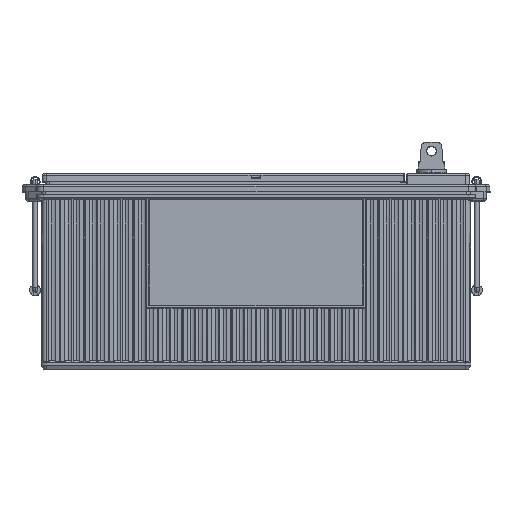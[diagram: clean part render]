
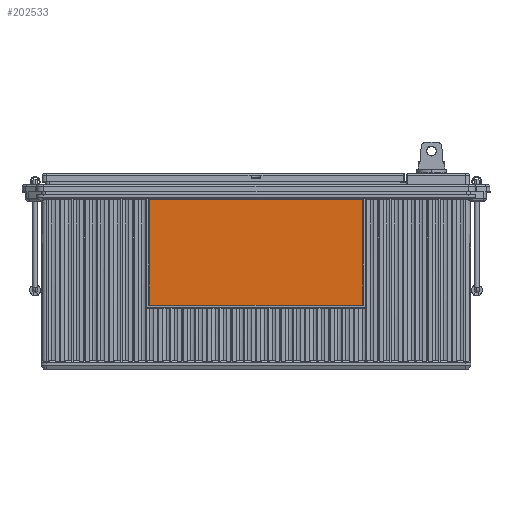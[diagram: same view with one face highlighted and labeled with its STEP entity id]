
A CAD part, top view. The second image highlights one B-rep face of the part: STEP entity #202533.
In plain terms, the highlighted planar face has unit normal (0, -0.004, 1).
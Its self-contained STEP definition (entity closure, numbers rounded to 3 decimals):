
#202513=AXIS2_PLACEMENT_3D('Plane Axis2P3D',#202510,#202511,#202512) ;
#196347=CARTESIAN_POINT('Vertex',(-117.808,187.092,124.358)) ;
#196350=CARTESIAN_POINT('Line Origine',(0.,187.092,124.358)) ;
#196354=CARTESIAN_POINT('Vertex',(117.808,187.092,124.358)) ;
#202491=CARTESIAN_POINT('Line Origine',(117.808,129.147,124.106)) ;
#202495=CARTESIAN_POINT('Vertex',(117.808,71.202,123.853)) ;
#202510=CARTESIAN_POINT('Axis2P3D Location',(0.,129.147,124.106)) ;
#202515=CARTESIAN_POINT('Line Origine',(0.,71.202,123.853)) ;
#202519=CARTESIAN_POINT('Vertex',(-117.808,71.202,123.853)) ;
#202522=CARTESIAN_POINT('Line Origine',(-117.808,129.147,124.106)) ;
#196351=DIRECTION('Vector Direction',(1.,0.,0.)) ;
#202492=DIRECTION('Vector Direction',(0.,1.,0.004)) ;
#202511=DIRECTION('Axis2P3D Direction',(0.,-0.004,1.)) ;
#202512=DIRECTION('Axis2P3D XDirection',(-1.,0.,0.)) ;
#202516=DIRECTION('Vector Direction',(1.,0.,0.)) ;
#202523=DIRECTION('Vector Direction',(0.,1.,0.004)) ;
#196352=VECTOR('Line Direction',#196351,1.) ;
#202493=VECTOR('Line Direction',#202492,1.) ;
#202517=VECTOR('Line Direction',#202516,1.) ;
#202524=VECTOR('Line Direction',#202523,1.) ;
#202528=ORIENTED_EDGE('',*,*,#202521,.T.) ;
#202529=ORIENTED_EDGE('',*,*,#202497,.T.) ;
#202530=ORIENTED_EDGE('',*,*,#196356,.F.) ;
#202531=ORIENTED_EDGE('',*,*,#202526,.F.) ;
#202533=ADVANCED_FACE('\X2\96F64EF651E04F554F53\X0\.5',(#202532),#202514,.T.) ;
#196356=EDGE_CURVE('',#196348,#196355,#196353,.T.) ;
#202497=EDGE_CURVE('',#202496,#196355,#202494,.T.) ;
#202521=EDGE_CURVE('',#202520,#202496,#202518,.T.) ;
#202526=EDGE_CURVE('',#202520,#196348,#202525,.T.) ;
#202527=EDGE_LOOP('',(#202528,#202529,#202530,#202531)) ;
#202532=FACE_OUTER_BOUND('',#202527,.T.) ;
#196353=LINE('Line',#196350,#196352) ;
#202494=LINE('Line',#202491,#202493) ;
#202518=LINE('Line',#202515,#202517) ;
#202525=LINE('Line',#202522,#202524) ;
#202514=PLANE('Plane',#202513) ;
#196348=VERTEX_POINT('',#196347) ;
#196355=VERTEX_POINT('',#196354) ;
#202496=VERTEX_POINT('',#202495) ;
#202520=VERTEX_POINT('',#202519) ;
